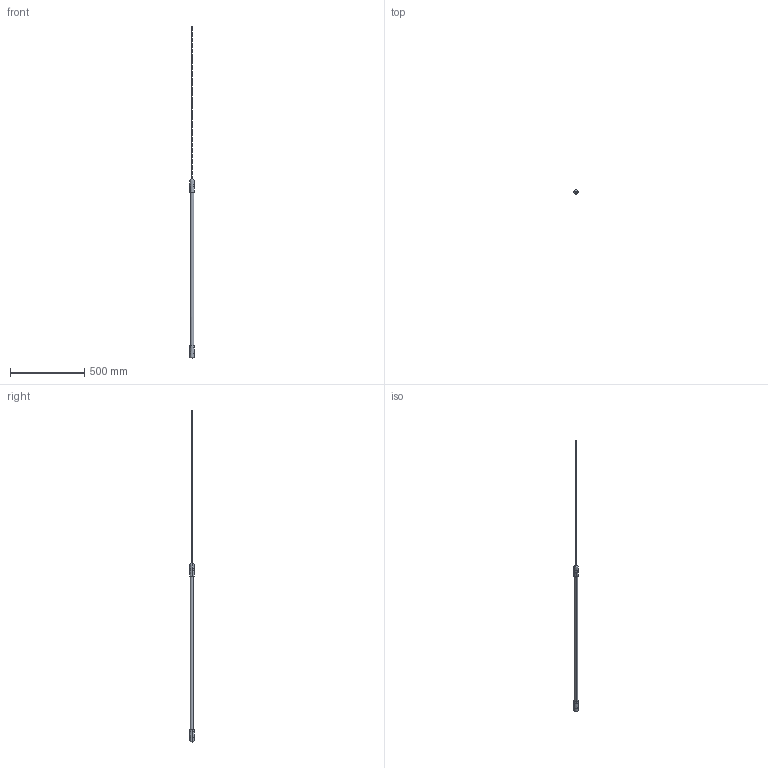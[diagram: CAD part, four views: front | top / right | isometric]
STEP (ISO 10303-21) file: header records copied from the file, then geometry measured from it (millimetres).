
FILE_DESCRIPTION(/* description */ (''),/* implementation_level */ '2;1');
FILE_NAME(/* name */ '1YPOSN~J',/* time_stamp */ '2026-03-05T15:48:32+01:00',/* author */ (''),/* organization */ (''),/* preprocessor_version */ 'ST-DEVELOPER v16.5',/* originating_system */ '',/* authorisation */ '');
FILE_SCHEMA (('AUTOMOTIVE_DESIGN'));
Length unit declared in the file: millimetre
Products named in the file (1): Document
Bounding box: 28.12 x 28.1 x 2231.26 mm (x, y, z)
Volume: 499389 mm3; surface area: 264520.9 mm2
Topology: 5 solids, 5 shells, 28 faces, 54 edges, 30 vertices
Faces by surface type: bspline 28
Entity records: 1823 total; most frequent: CARTESIAN_POINT 1164, ORIENTED_EDGE 100, PCURVE 100, DEFINITIONAL_REPRESENTATION 100, B_SPLINE_CURVE_WITH_KNOTS 98, SURFACE_CURVE 50, EDGE_CURVE 50, EDGE_LOOP 30
